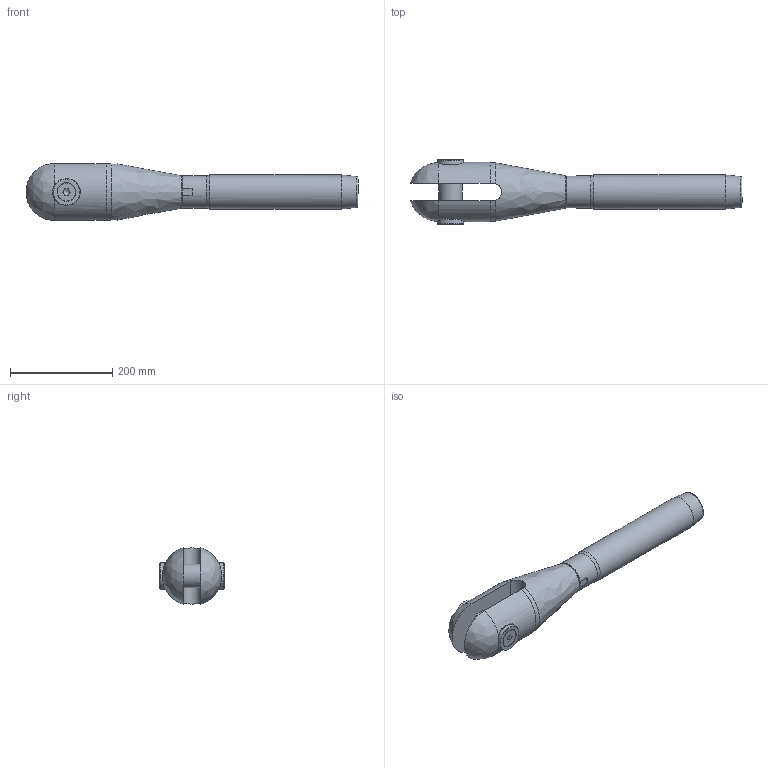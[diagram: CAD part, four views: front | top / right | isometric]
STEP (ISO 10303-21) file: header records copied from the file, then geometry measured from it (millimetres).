
FILE_DESCRIPTION(/* description */ (''),/* implementation_level */ '2;1');
FILE_NAME(/* name */ 'MAC-R 32_S355',/* time_stamp */ '2023-05-23T17:52:54+02:00',/* author */ (''),/* organization */ (''),/* preprocessor_version */ 'ST-DEVELOPER v16.5',/* originating_system */ 'Rhino 7.22',/* authorisation */ '');
FILE_SCHEMA (('CONFIG_CONTROL_DESIGN'));
Length unit declared in the file: millimetre
Products named in the file (1): Document
Bounding box: 650.37 x 125.6 x 110.91 mm (x, y, z)
Volume: 3067956.6 mm3; surface area: 290542.9 mm2
Topology: 7 solids, 7 shells, 87 faces, 245 edges, 171 vertices
Faces by surface type: plane 36, bspline 27, cylinder 24
Full cylindrical faces by diameter (mm): 17.294 x2, 20 x2, 21 x2, 35.4 x2, 46 x1, 48 x2, 52 x2, 56.752 x1, 60 x1, 63.5 x1, 66.8 x1
Entity records: 3531 total; most frequent: CARTESIAN_POINT 1975, ORIENTED_EDGE 480, EDGE_CURVE 240, VERTEX_POINT 171, EDGE_LOOP 99, B_SPLINE_CURVE_WITH_KNOTS 96, ADVANCED_FACE 87, FACE_OUTER_BOUND 87
